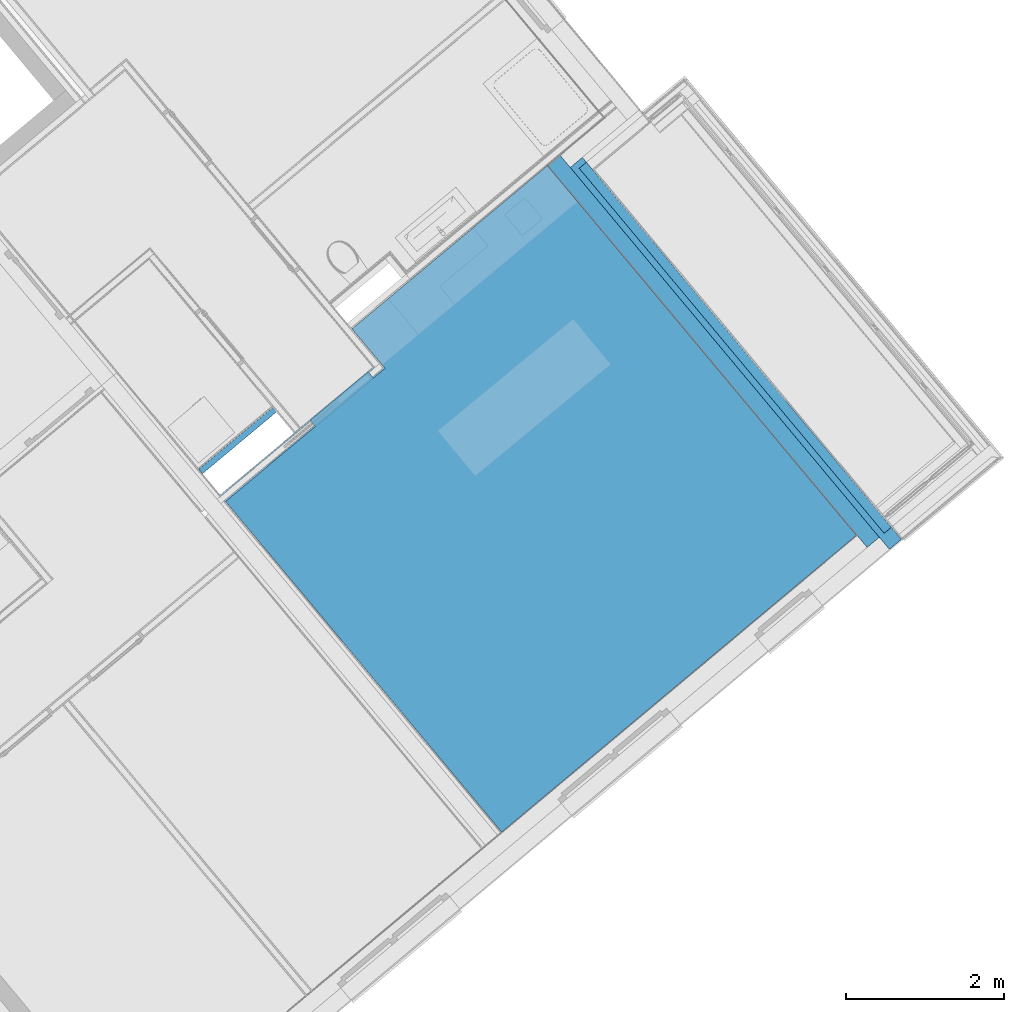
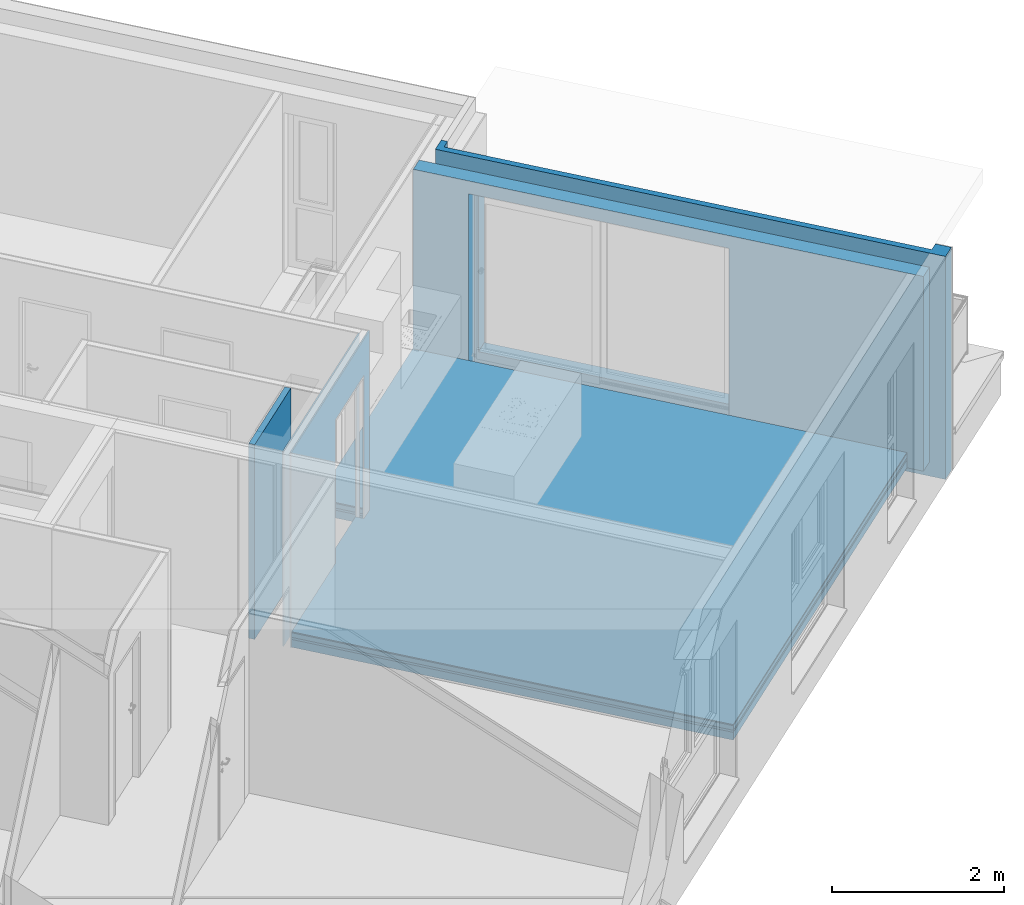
# One storey, part 27 of 50: 7 building element parts, 2 openings, 4 elements without a shape of their own, plus 2 elements that do not belong to this part.
"""IFC4 building model written with IfcOpenShell, lengths in metres."""

from ifc_helpers import new_model, entity, si_unit, converted_unit, derived_unit, direction, frame, origin_with_axes, place, context, subcontext, project, spatial, polygons, material, type_object, element, aggregate, save


model = new_model("IFC4")

# Units and contexts
model_context = context("Model", 3, precision=1e-05, world=origin_with_axes(), true_north=direction((0.0, 1.0)))
body_context = subcontext(model_context, "Body", "Model", "MODEL_VIEW")
ifc_project = project(units=[si_unit("LENGTHUNIT", "METRE"), si_unit("AREAUNIT", "SQUARE_METRE"), si_unit("VOLUMEUNIT", "CUBIC_METRE"), converted_unit("PLANEANGLEUNIT", "DEGREE", entity("IfcPlaneAngleMeasure", 0.0174532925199), si_unit("PLANEANGLEUNIT", "RADIAN"), dimensions=[0, 0, 0, 0, 0, 0, 0]), converted_unit("TIMEUNIT", "Year", entity("IfcTimeMeasure", 31556926.0), si_unit("TIMEUNIT", "SECOND"), dimensions=[0, 0, 1, 0, 0, 0, 0]), si_unit("MASSUNIT", "GRAM", prefix="KILO"), si_unit("THERMODYNAMICTEMPERATUREUNIT", "DEGREE_CELSIUS"), si_unit("LUMINOUSINTENSITYUNIT", "LUMEN"), si_unit("ENERGYUNIT", "JOULE", prefix="MEGA"), derived_unit("THERMALCONDUCTANCEUNIT", [(si_unit("POWERUNIT", "WATT"), 1), (si_unit("LENGTHUNIT", "METRE"), -1), (si_unit("THERMODYNAMICTEMPERATUREUNIT", "KELVIN"), -1)]), derived_unit("SPECIFICHEATCAPACITYUNIT", [(si_unit("ENERGYUNIT", "JOULE"), 1), (si_unit("MASSUNIT", "GRAM", prefix="KILO"), -1), (si_unit("THERMODYNAMICTEMPERATUREUNIT", "KELVIN"), -1)]), derived_unit("MASSDENSITYUNIT", [(si_unit("MASSUNIT", "GRAM", prefix="KILO"), 1), (si_unit("VOLUMEUNIT", "CUBIC_METRE"), -1)])], contexts=[model_context])

# Site, building, storey
site_placement = place(None, frame((-0.00153261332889, -0.00661245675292, 0.0), z_axis=(0.0, 0.0, 1.0), x_axis=(1.0, 0.0, 0.0)))
site = spatial("IfcSite", under=ifc_project, at=site_placement, Name="Site", CompositionType="ELEMENT")
building_placement = place(site_placement, origin_with_axes())
building = spatial("IfcBuilding", under=site, at=building_placement, Name="Building", CompositionType="ELEMENT")
storey_placement = place(building_placement, frame((0.0, 0.0, 2.74), z_axis=(0.0, 0.0, 1.0), x_axis=(1.0, 0.0, 0.0)))
storey = spatial("IfcBuildingStorey", under=building, at=storey_placement, Name="OG1", CompositionType="ELEMENT", Elevation=2.74)

# Wall, opening, building element parts
wall_type_1 = type_object("IfcWallType", Name="IW LB 01 Leichtbautrennwand einfach 10,5 cm 105", PredefinedType="NOTDEFINED")
wall_1_placement = place(storey_placement, frame((4.75634479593, 20.7201278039, 0.0), z_axis=(0.0, 0.0, 1.0), x_axis=(0.767768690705, 0.640727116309, 0.0)))
wall_1 = element("IfcWall", 1, at=wall_1_placement, inside=storey, type_object=wall_type_1, Name="Wand-012", PredefinedType="NOTDEFINED")
opening_1_placement = place(wall_1_placement, frame((2.0266659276, 0.0, 0.22), z_axis=(0.0, 0.0, 1.0), x_axis=(1.0, 0.0, 0.0)))
element("IfcOpeningElement", 2, at=opening_1_placement, cuts=wall_1, Name="Tür-001", context=body_context, identifier="Reference", shape_type="Tessellation", body=[
    polygons([(-0.48, -1.32747549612, -0.22), (-0.48, -1.32747549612, 2.03), (-0.48, 1.43247549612, 2.03), (-0.48, 1.43247549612, -0.22), (-0.48, 0.09, 2.0), (-0.48, 0.015, 2.0), (-0.48, 0.015, 0.0), (-0.48, 0.09, 0.0), (0.48, -1.32747549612, -0.22), (0.48, -1.32747549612, 2.03), (0.48, 1.43247549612, 2.03), (0.48, 1.43247549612, -0.22), (-1.44, 0.09, 2.0), (-1.44, 0.015, 2.0), (-1.44, 0.015, 0.0), (-1.44, 0.09, 0.0)], [[[1, 2, 3, 4], [5, 6, 7, 8]], [[1, 9, 10, 2]], [[2, 10, 11, 3]], [[11, 12, 4, 3]], [[9, 1, 4, 12]], [[6, 5, 13, 14]], [[7, 6, 14, 15]], [[8, 7, 15, 16]], [[5, 8, 16, 13]], [[10, 9, 12, 11]], [[14, 13, 16, 15]]], closed=True),
])
ifc_material_1 = material(Name="Gipskarton")
building_element_part_1_placement = place(wall_1_placement, origin_with_axes())
building_element_part_1 = element("IfcBuildingElementPart", 3, at=building_element_part_1_placement, material=ifc_material_1, Name="Gipskarton", PredefinedType="NOTDEFINED", context=body_context, shape_type="Tessellation", body=[
    polygons([(1.5466659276, 0.09, 0.22), (1.5466659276, 0.09, 2.25), (2.5066659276, 0.09, 2.25), (2.5066659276, 0.09, 0.22), (2.50666590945, 0.09, 0.0), (2.6064142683, 0.09, 0.0), (2.6064142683, 0.09, 2.76), (0.0499861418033, 0.09, 2.76), (0.0499861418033, 0.09, 0.0), (1.5466659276, 0.09, 0.0), (1.5466659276, 0.104999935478, 0.22), (1.5466659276, 0.104999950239, 2.25), (2.5066659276, 0.104999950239, 2.25), (2.5066659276, 0.104999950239, 0.22), (2.5066659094, 0.104999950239, 0.0), (2.60640484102, 0.105, 0.0), (2.60640484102, 0.105, 2.76), (0.0499838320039, 0.105, 2.76), (0.0499838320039, 0.105, 0.0), (1.5466659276, 0.104999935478, 0.0)], [[[1, 2, 3, 4, 5, 6, 7, 8, 9, 10]], [[2, 1, 11, 12]], [[3, 2, 12, 13]], [[4, 3, 13, 14]], [[4, 14, 15, 5]], [[15, 16, 6, 5]], [[16, 17, 7, 6]], [[17, 18, 8, 7]], [[19, 9, 8, 18]], [[10, 9, 19, 20]], [[11, 1, 10, 20]], [[12, 11, 20, 19, 18, 17, 16, 15, 14, 13]]], closed=True),
])
building_element_part_2_placement = place(wall_1_placement, origin_with_axes())
building_element_part_2 = element("IfcBuildingElementPart", 4, at=building_element_part_2_placement, material=ifc_material_1, Name="Gipskarton", PredefinedType="NOTDEFINED", context=body_context, shape_type="Tessellation", body=[
    polygons([(1.5466659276, 0.0, 0.22), (1.5466659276, 0.0, 2.25), (2.5066659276, 0.0, 2.25), (2.5066659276, 0.0, 0.22), (2.50666590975, 0.0, 0.0), (2.6964708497, 0.0, 0.0), (2.6964708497, 0.0, 2.76), (0.0500000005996, 0.0, 2.76), (0.0500000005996, 0.0, 0.0), (1.5466659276, 0.0, 0.0), (1.5466659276, 0.015, 0.22), (1.5466659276, 0.015, 2.25), (2.5066659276, 0.015, 2.25), (2.5066659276, 0.015, 0.22), (2.5066659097, 0.015, 0.0), (2.69646142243, 0.015, 0.0), (2.69646142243, 0.015, 2.76), (0.0499976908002, 0.015, 2.76), (0.0499976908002, 0.015, 0.0), (1.5466659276, 0.015, 0.0)], [[[1, 2, 3, 4, 5, 6, 7, 8, 9, 10]], [[2, 1, 11, 12]], [[3, 2, 12, 13]], [[4, 3, 13, 14]], [[4, 14, 15, 5]], [[15, 16, 6, 5]], [[16, 17, 7, 6]], [[17, 18, 8, 7]], [[19, 9, 8, 18]], [[10, 9, 19, 20]], [[11, 1, 10, 20]], [[12, 11, 20, 19, 18, 17, 16, 15, 14, 13]]], closed=True),
])
aggregate(wall_1, [building_element_part_1, building_element_part_2])

wall_type_2 = type_object("IfcWallType", Name="AW EG 420", PredefinedType="NOTDEFINED")
wall_2_placement = place(storey_placement, frame((9.48027034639, 24.9670510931, -0.2), z_axis=(0.0, 0.0, 1.0), x_axis=(0.641209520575, -0.76736585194, 0.0)))
wall_2 = element("IfcWall", 5, at=wall_2_placement, inside=storey, type_object=wall_type_2, Name="Wand-002", PredefinedType="NOTDEFINED")
opening_2_placement = place(wall_2_placement, frame((1.87886023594, 0.0, 0.42), z_axis=(0.0, 0.0, 1.0), x_axis=(1.0, 0.0, 0.0)))
element("IfcOpeningElement", 6, at=opening_2_placement, cuts=wall_2, Name="Tür-001", context=body_context, identifier="Reference", shape_type="Tessellation", body=[
    polygons([(-1.56, -0.215, 2.31), (1.56, -0.215, 2.31), (1.56, 3.00714672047, 2.31), (-1.56, 3.00714672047, 2.31), (1.61, -0.215, -0.22), (-1.61, -0.215, -0.22), (-1.61, -0.215, 2.36), (1.61, -0.215, 2.36), (1.56, -0.215, 0.0), (-1.56, -0.215, 0.0), (1.56, 3.00714672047, 0.0), (-1.56, 3.00714672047, 0.0), (1.61, -3.42714672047, -0.22), (-1.61, -3.42714672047, -0.22), (-1.61, -3.42714672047, 2.36), (1.61, -3.42714672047, 2.36)], [[[1, 2, 3, 4]], [[5, 6, 7, 8], [9, 2, 1, 10]], [[2, 9, 11, 3]], [[3, 11, 12, 4]], [[10, 1, 4, 12]], [[6, 5, 13, 14]], [[7, 6, 14, 15]], [[8, 7, 15, 16]], [[5, 8, 16, 13]], [[9, 10, 12, 11]], [[15, 14, 13, 16]]], closed=True),
])
ifc_material_2 = material(Name="EPS 1")
building_element_part_3_placement = place(wall_2_placement, origin_with_axes())
building_element_part_3 = element("IfcBuildingElementPart", 7, at=building_element_part_3_placement, material=ifc_material_2, Name="EPS 1", PredefinedType="NOTDEFINED", context=body_context, shape_type="Tessellation", body=[
    polygons([(6.0946691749, -0.215, 3.16), (-0.2149998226, -0.215, 3.16), (-0.2149998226, -0.215, 0.0), (6.0946691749, -0.215, 0.0), (0.318860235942, -0.215, 0.42), (0.318860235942, -0.215, 2.73), (3.43886023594, -0.215, 2.73), (3.43886023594, -0.215, 0.42), (6.09453892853, -0.015, 3.16), (5.89466913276, -0.015, 3.16), (5.89466913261, -0.135000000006, 3.16), (-0.134999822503, -0.135000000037, 3.16), (-0.134999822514, -0.015, 3.16), (-0.214999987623, -0.015, 3.16), (-0.214999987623, -0.015, 0.0), (-0.134999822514, -0.015, 0.0), (-0.134999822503, -0.135000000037, 0.0), (5.89466913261, -0.135000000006, 0.0), (5.89466913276, -0.015, 0.0), (6.09453892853, -0.015, 0.0), (0.318860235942, -0.015, 0.42), (0.318860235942, -0.015, 2.73), (3.43886023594, -0.015, 2.73), (3.43886023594, -0.015, 0.42), (-0.134999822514, -0.015, 2.96), (5.89466913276, -0.015, 2.96), (5.89466913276, -0.015, 0.2), (-0.134999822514, -0.015, 0.2), (5.89466913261, -0.135000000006, 2.96), (-0.134999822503, -0.135000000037, 2.96), (-0.134999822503, -0.135000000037, 0.2), (5.89466913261, -0.135000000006, 0.2)], [[[1, 2, 3, 4], [5, 6, 7, 8]], [[9, 10, 11, 12, 13, 14, 2, 1]], [[2, 14, 15, 3]], [[15, 16, 17, 18, 19, 20, 4, 3]], [[1, 4, 20, 9]], [[21, 22, 6, 5]], [[22, 23, 7, 6]], [[23, 24, 8, 7]], [[24, 21, 5, 8]], [[15, 14, 13, 25, 26, 10, 9, 20, 19, 27, 28, 16], [21, 24, 23, 22]], [[10, 26, 29, 11]], [[11, 29, 30, 12]], [[13, 12, 30, 25]], [[28, 31, 17, 16]], [[17, 31, 32, 18]], [[19, 18, 32, 27]], [[25, 30, 29, 26]], [[27, 32, 31, 28]]], closed=True),
])
ifc_material_3 = material(Name="Stahlbeton Wand")
building_element_part_4_placement = place(wall_2_placement, origin_with_axes())
building_element_part_4 = element("IfcBuildingElementPart", 8, at=building_element_part_4_placement, material=ifc_material_3, Name="Stahlbeton Wand", PredefinedType="NOTDEFINED", context=body_context, shape_type="Tessellation", body=[
    polygons([(0.268860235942, -0.215, 2.78), (0.268860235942, -0.215, 0.2), (-0.214999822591, -0.215000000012, 0.2), (-0.414999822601, -0.215, 0.2), (-0.414999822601, -0.215, 2.96), (-0.214999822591, -0.215000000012, 2.96), (5.89466913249, -0.215000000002, 2.96), (5.89466913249, -0.215000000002, 0.2), (3.48886023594, -0.215, 0.2), (3.48886023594, -0.215, 2.78), (0.268860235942, -0.415, 2.78), (0.268860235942, -0.415, 0.2), (-0.414999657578, -0.415, 0.2), (-0.414999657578, -0.415, 2.96), (5.89479937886, -0.415, 2.96), (5.89479937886, -0.415, 0.2), (3.48886023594, -0.415, 0.2), (3.48886023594, -0.415, 2.78)], [[[1, 2, 3, 4, 5, 6, 7, 8, 9, 10]], [[2, 1, 11, 12]], [[2, 12, 13, 4, 3]], [[5, 4, 13, 14]], [[6, 5, 14, 15, 7]], [[15, 16, 8, 7]], [[17, 9, 8, 16]], [[10, 9, 17, 18]], [[1, 10, 18, 11]], [[18, 17, 16, 15, 14, 13, 12, 11]]], closed=True),
])
aggregate(wall_2, [building_element_part_3, building_element_part_4])

# Wall, building element part
wall_type_3 = type_object("IfcWallType", Name="LB 9,0 cm einfache Vorsatzschale  90", PredefinedType="NOTDEFINED")
wall_3_placement = place(storey_placement, frame((4.46491081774, 21.0692371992, 0.0), z_axis=(0.0, 0.0, 1.0), x_axis=(0.767365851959, 0.641209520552, 0.0)))
wall_3 = element("IfcWall", 9, at=wall_3_placement, inside=storey, type_object=wall_type_3, Name="Wand-006", PredefinedType="NOTDEFINED")
ifc_material_4 = material(Name="Mineralwolle weich")
building_element_part_5_placement = place(wall_3_placement, origin_with_axes())
building_element_part_5 = element("IfcBuildingElementPart", 10, at=building_element_part_5_placement, material=ifc_material_4, Name="Mineralwolle weich", PredefinedType="NOTDEFINED", context=body_context, shape_type="Tessellation", body=[
    polygons([(1.28718371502, 0.075, 0.0), (1.28718371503, 0.0, 0.0), (0.0650000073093, 0.0, 0.0), (0.0650355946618, 0.075, 0.0), (1.28718371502, 0.075, 2.76), (1.28718371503, 0.0, 2.76), (0.0650000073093, 0.0, 2.76), (0.0650355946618, 0.075, 2.76)], [[[1, 2, 3, 4]], [[2, 1, 5, 6]], [[2, 6, 7, 3]], [[8, 4, 3, 7]], [[5, 1, 4, 8]], [[6, 5, 8, 7]]], closed=True),
])
aggregate(wall_3, [building_element_part_5])

# Covering, building element parts
covering_type = type_object("IfcCoveringType", Name="DE 01 Decke Wohnung/Wohnung Parkett 220", PredefinedType="NOTDEFINED")
covering_placement = place(storey_placement, frame((4.8062497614, 20.7617750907, 0.22), z_axis=(0.0, 0.0, 1.0), x_axis=(1.0, 0.0, 0.0)))
covering = element("IfcCovering", 11, at=covering_placement, inside=storey, type_object=covering_type, Name="Decke-005", PredefinedType="NOTDEFINED")
ifc_material_5 = material(Name="Parkett")
building_element_part_6_placement = place(covering_placement, origin_with_axes())
building_element_part_6 = element("IfcBuildingElementPart", 12, at=building_element_part_6_placement, material=ifc_material_5, Name="Parkett", PredefinedType="NOTDEFINED", context=body_context, shape_type="Tessellation", body=[
    polygons([(0.0, 0.0, -0.015), (3.5013638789, -4.19429140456, -0.015), (3.5013638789, -4.19429140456, 0.0), (0.0, 0.0, 0.0), (1.13757667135, 0.94934347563, -0.015), (1.07030040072, 1.02995917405, -0.015), (1.80735832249, 1.64505720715, -0.015), (1.87463459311, 1.56444150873, -0.015), (2.02036092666, 1.68605464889, -0.015), (1.60254077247, 2.18607990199, -0.015), (4.08241896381, 4.25826166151, -0.015), (8.00008249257, -0.43019226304, -0.015), (8.00008249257, -0.43019226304, 0.0), (1.13757667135, 0.94934347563, 0.0), (4.08241896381, 4.25826166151, 0.0), (1.60254077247, 2.18607990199, 0.0), (2.02036092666, 1.68605464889, 0.0), (1.87463459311, 1.56444150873, 0.0), (1.80735832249, 1.64505720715, 0.0), (1.07030040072, 1.02995917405, 0.0)], [[[1, 2, 3, 4]], [[2, 1, 5, 6, 7, 8, 9, 10, 11, 12]], [[2, 12, 13, 3]], [[14, 4, 3, 13, 15, 16, 17, 18, 19, 20]], [[5, 1, 4, 14]], [[6, 5, 14, 20]], [[7, 6, 20, 19]], [[8, 7, 19, 18]], [[9, 8, 18, 17]], [[10, 9, 17, 16]], [[11, 10, 16, 15]], [[12, 11, 15, 13]]], closed=True),
])
ifc_material_6 = material(Name="Estrich")
building_element_part_7_placement = place(covering_placement, origin_with_axes())
building_element_part_7 = element("IfcBuildingElementPart", 13, at=building_element_part_7_placement, material=ifc_material_6, Name="Estrich", PredefinedType="NOTDEFINED", context=body_context, shape_type="Tessellation", body=[
    polygons([(0.0, 0.0, -0.08), (3.5013638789, -4.19429140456, -0.08), (3.5013638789, -4.19429140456, -0.015), (0.0, 0.0, -0.015), (1.13757667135, 0.94934347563, -0.08), (1.07030040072, 1.02995917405, -0.08), (1.80735832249, 1.64505720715, -0.08), (1.87463459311, 1.56444150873, -0.08), (2.02036092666, 1.68605464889, -0.08), (1.60254077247, 2.18607990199, -0.08), (4.08241896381, 4.25826166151, -0.08), (8.00008249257, -0.43019226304, -0.08), (8.00008249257, -0.43019226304, -0.015), (1.13757667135, 0.94934347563, -0.015), (4.08241896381, 4.25826166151, -0.015), (1.60254077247, 2.18607990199, -0.015), (2.02036092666, 1.68605464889, -0.015), (1.87463459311, 1.56444150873, -0.015), (1.80735832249, 1.64505720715, -0.015), (1.07030040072, 1.02995917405, -0.015)], [[[1, 2, 3, 4]], [[2, 1, 5, 6, 7, 8, 9, 10, 11, 12]], [[2, 12, 13, 3]], [[14, 4, 3, 13, 15, 16, 17, 18, 19, 20]], [[5, 1, 4, 14]], [[6, 5, 14, 20]], [[7, 6, 20, 19]], [[8, 7, 19, 18]], [[9, 8, 18, 17]], [[10, 9, 17, 16]], [[11, 10, 16, 15]], [[12, 11, 15, 13]]], closed=True),
])
ifc_material_7 = material(Name="Trittschalldämmung")
building_element_part_8_placement = place(covering_placement, origin_with_axes())
building_element_part_8 = element("IfcBuildingElementPart", 14, at=building_element_part_8_placement, material=ifc_material_7, Name="Trittschalldämmung", PredefinedType="NOTDEFINED", context=body_context, shape_type="Tessellation", body=[
    polygons([(0.0, 0.0, -0.11), (3.5013638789, -4.19429140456, -0.11), (3.5013638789, -4.19429140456, -0.08), (0.0, 0.0, -0.08), (1.13757667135, 0.94934347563, -0.11), (1.07030040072, 1.02995917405, -0.11), (1.80735832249, 1.64505720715, -0.11), (1.87463459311, 1.56444150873, -0.11), (2.02036092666, 1.68605464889, -0.11), (1.60254077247, 2.18607990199, -0.11), (4.08241896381, 4.25826166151, -0.11), (8.00008249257, -0.43019226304, -0.11), (8.00008249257, -0.43019226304, -0.08), (1.13757667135, 0.94934347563, -0.08), (4.08241896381, 4.25826166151, -0.08), (1.60254077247, 2.18607990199, -0.08), (2.02036092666, 1.68605464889, -0.08), (1.87463459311, 1.56444150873, -0.08), (1.80735832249, 1.64505720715, -0.08), (1.07030040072, 1.02995917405, -0.08)], [[[1, 2, 3, 4]], [[2, 1, 5, 6, 7, 8, 9, 10, 11, 12]], [[2, 12, 13, 3]], [[14, 4, 3, 13, 15, 16, 17, 18, 19, 20]], [[5, 1, 4, 14]], [[6, 5, 14, 20]], [[7, 6, 20, 19]], [[8, 7, 19, 18]], [[9, 8, 18, 17]], [[10, 9, 17, 16]], [[11, 10, 16, 15]], [[12, 11, 15, 13]]], closed=True),
])
ifc_material_8 = material(Name="Schüttung")
building_element_part_9_placement = place(covering_placement, origin_with_axes())
building_element_part_9 = element("IfcBuildingElementPart", 15, at=building_element_part_9_placement, material=ifc_material_8, Name="Schüttung", PredefinedType="NOTDEFINED", context=body_context, shape_type="Tessellation", body=[
    polygons([(0.0, 0.0, -0.11), (0.0, 0.0, -0.22), (3.5013638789, -4.19429140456, -0.22), (3.5013638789, -4.19429140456, -0.11), (1.13757667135, 0.94934347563, -0.11), (1.13757667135, 0.94934347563, -0.22), (1.07030040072, 1.02995917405, -0.22), (1.80735832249, 1.64505720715, -0.22), (1.87463459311, 1.56444150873, -0.22), (2.02036092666, 1.68605464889, -0.22), (1.60254077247, 2.18607990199, -0.22), (4.08241896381, 4.25826166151, -0.22), (8.00008249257, -0.43019226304, -0.22), (8.00008249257, -0.43019226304, -0.11), (4.08241896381, 4.25826166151, -0.11), (1.60254077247, 2.18607990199, -0.11), (2.02036092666, 1.68605464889, -0.11), (1.87463459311, 1.56444150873, -0.11), (1.80735832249, 1.64505720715, -0.11), (1.07030040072, 1.02995917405, -0.11)], [[[1, 2, 3, 4]], [[5, 6, 2, 1]], [[3, 2, 6, 7, 8, 9, 10, 11, 12, 13]], [[4, 3, 13, 14]], [[5, 1, 4, 14, 15, 16, 17, 18, 19, 20]], [[20, 7, 6, 5]], [[19, 8, 7, 20]], [[18, 9, 8, 19]], [[17, 10, 9, 18]], [[16, 11, 10, 17]], [[15, 12, 11, 16]], [[14, 13, 12, 15]]], closed=True),
])
aggregate(covering, [building_element_part_6, building_element_part_7, building_element_part_8, building_element_part_9])

save(model, "model.ifc")
